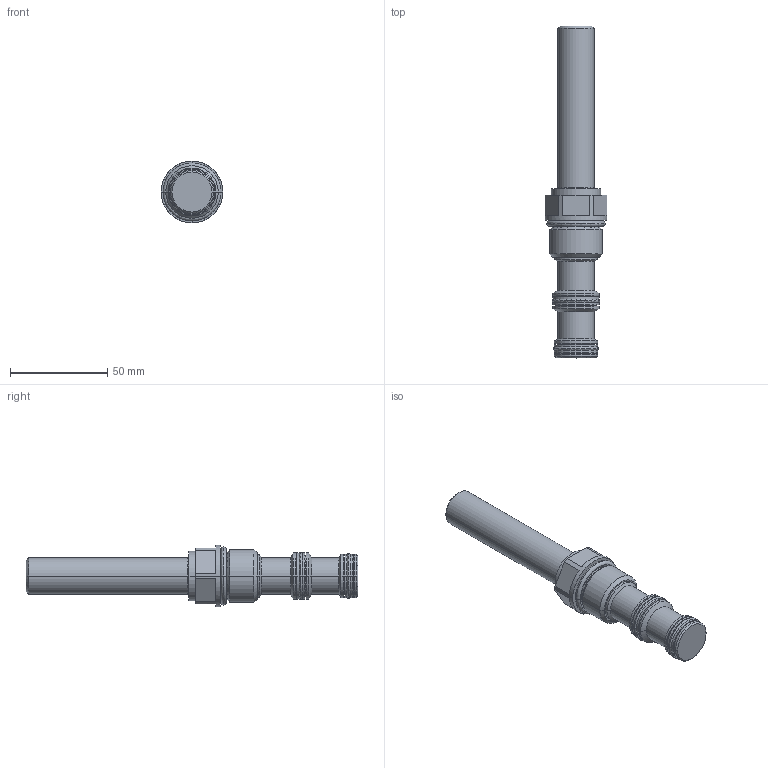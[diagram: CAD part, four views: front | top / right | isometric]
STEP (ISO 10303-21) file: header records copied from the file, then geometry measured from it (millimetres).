
FILE_DESCRIPTION((''),'2;1');
FILE_NAME('5042200_SW0001','2009-03-02T',('JCS'),(''),'PRO/ENGINEER BY PARAMETRIC TECHNOLOGY CORPORATION, 2008010','PRO/ENGINEER BY PARAMETRIC TECHNOLOGY CORPORATION, 2008010','');
FILE_SCHEMA(('CONFIG_CONTROL_DESIGN'));
Length unit declared in the file: inch
Products named in the file (1): 5042200_SW0001
Bounding box: 31.75 x 170.74 x 31.75 mm (x, y, z)
Volume: 62066.1 mm3; surface area: 15792.9 mm2
Topology: 4 solids, 4 shells, 142 faces, 294 edges, 166 vertices
Faces by surface type: cylinder 44, plane 26, torus 24, cone 24, revolution 24
Entity records: 4086 total; most frequent: CARTESIAN_POINT 954, DIRECTION 708, ORIENTED_EDGE 588, AXIS2_PLACEMENT_3D 296, EDGE_CURVE 294, CIRCLE 178, VERTEX_POINT 166, EDGE_LOOP 154
